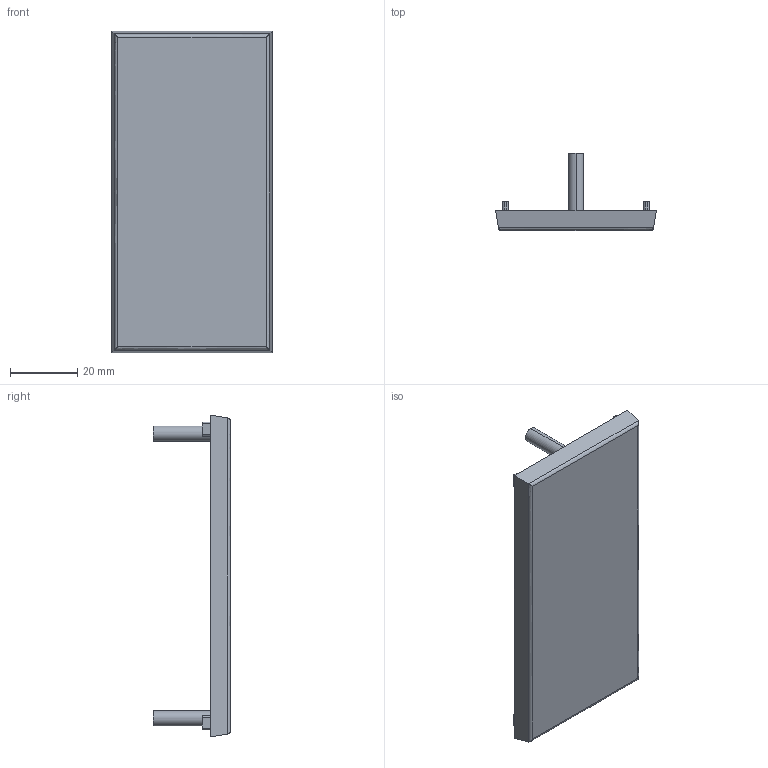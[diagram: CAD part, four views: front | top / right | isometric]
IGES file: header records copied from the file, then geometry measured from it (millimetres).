
Start section:  PTC IGES file: 48x96__adapter_igesfile.igs
Global section: file name: 48x96__adapter_igesfile.igs; native system: Pro/ENGINEER by Parametric Technology Corporation; preprocessor: 2010180; author: chrisloe; organization: Unknown; date: 20120404.162204; units: millimetre
Bounding box: 48 x 23 x 96 mm (x, y, z)
Volume: 11407.8 mm3; surface area: 12544.5 mm2
Topology: 1 solids, 1 shells, 57 faces, 140 edges, 92 vertices
Faces by surface type: bspline 33, revolution 24
